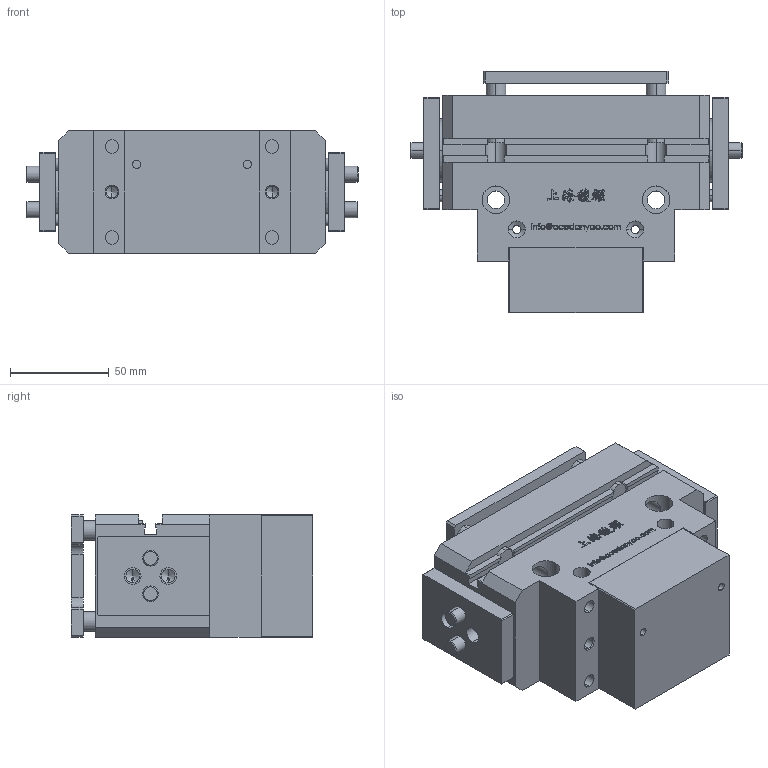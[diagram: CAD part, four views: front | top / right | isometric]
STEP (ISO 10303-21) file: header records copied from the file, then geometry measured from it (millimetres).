
FILE_DESCRIPTION (( 'STEP AP203' ), '1' );
FILE_NAME ('SRO-125-P-MA&MC-原始檔-組合-W106.04.21.STEP', '2017-04-20T09:20:26', ( 'DanyaoCAD' ), ( '' ), 'SwSTEP 2.0', 'SolidWorks 2016', '' );
FILE_SCHEMA (( 'CONFIG_CONTROL_DESIGN' ));
Length unit declared in the file: millimetre
Products named in the file (5): Piattello; Corpo; SRO-125-P-MA&MC-原始檔-組合-W106.04.21; Griffa; Fondello
Assembly tree (5 placements, depth 2):
  SRO-125-P-MA&MC-原始檔-組合-W106.04.21
    Griffa  x2
    Fondello
    Piattello
    Corpo
Bounding box: 168 x 122 x 62 mm (x, y, z)
Volume: 764172.2 mm3; surface area: 139796.6 mm2
Topology: 5 solids, 5 shells, 1066 faces, 2934 edges, 1936 vertices
Faces by surface type: bspline 640, plane 280, cylinder 110, cone 36
Entity records: 49917 total; most frequent: CARTESIAN_POINT 27465, ORIENTED_EDGE 5656, EDGE_CURVE 2828, DIRECTION 2514, VERTEX_POINT 1878, VECTOR 1316, LINE 1316, B_SPLINE_CURVE_WITH_KNOTS 1304
